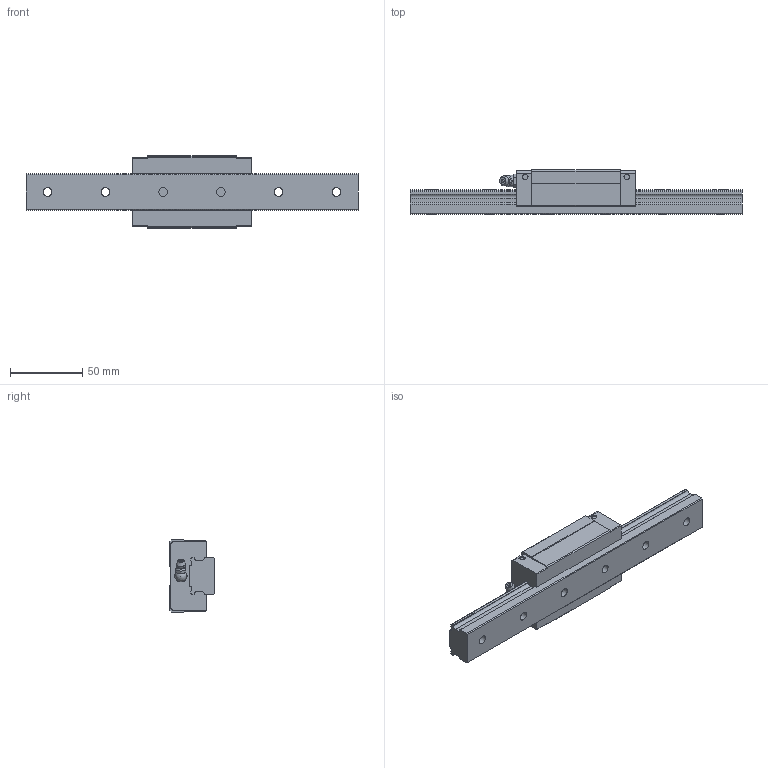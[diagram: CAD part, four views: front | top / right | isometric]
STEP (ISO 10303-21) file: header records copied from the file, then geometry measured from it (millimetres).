
FILE_DESCRIPTION(/* description */ ('STEP AP203'),/* implementation_level */ '2;1');
FILE_NAME(/* name */ 'SVR25R1SS-230L_G15_0_B-M6F_73-6_0_0_0_1',/* time_stamp */ '2024-05-17T07:06:03+02:00',/* author */ ('License CC BY-ND 4.0'),/* organization */ ('CADENAS'),/* preprocessor_version */ 'ST-DEVELOPER v19.3',/* originating_system */ 'PARTsolutions',/* authorisation */ ' ');
FILE_SCHEMA (('CONFIG_CONTROL_DESIGN'));
Length unit declared in the file: millimetre
Products named in the file (4): SVR25R1SS-230L_G15_0_B-M6F_73-6_0_0_0_1; SVR 25R23015 R Track; SVR 25R1SSB-M6F1 Slide; B-M6F_grease_nipple_joint1_SVR
Assembly tree (3 placements, depth 2):
  SVR25R1SS-230L_G15_0_B-M6F_73-6_0_0_0_1
    SVR 25R23015 R Track
    SVR 25R1SSB-M6F1 Slide
    B-M6F_grease_nipple_joint1_SVR
Bounding box: 230 x 31 x 50 mm (x, y, z)
Volume: 166190.8 mm3; surface area: 40741.9 mm2
Topology: 3 solids, 3 shells, 176 faces, 460 edges, 301 vertices
Faces by surface type: plane 94, cylinder 56, cone 21, sphere 3, torus 2
Full cylindrical faces by diameter (mm): 3.9 x4, 4.917 x6, 6 x7, 8 x1, 9.5 x6
Entity records: 5225 total; most frequent: CARTESIAN_POINT 967, DIRECTION 872, ORIENTED_EDGE 796, EDGE_CURVE 398, AXIS2_PLACEMENT_3D 318, VERTEX_POINT 289, FACE_BOUND 249, EDGE_LOOP 243
